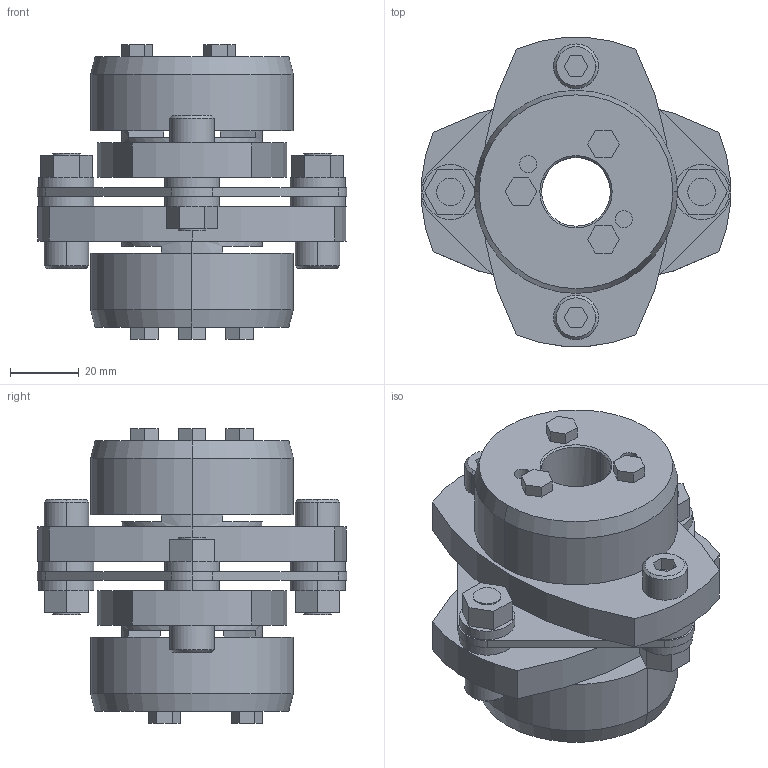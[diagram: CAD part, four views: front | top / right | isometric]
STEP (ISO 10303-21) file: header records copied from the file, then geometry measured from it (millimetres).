
FILE_DESCRIPTION((''),'2;1');
FILE_NAME('LCS-90T7-20×22.stp','2011-09-09T09:53:26',(''),(''),'AutoCAD STEP 2000i','AutoCAD 2000i',', , ');
FILE_SCHEMA(('CONFIG_CONTROL_DESIGN'));
Length unit declared in the file: millimetre
Products named in the file (7): LCS-90T7-19×19; 忣兜1; LC90T7-T019-1; LC90T7-T019; LC90-B019-1; LC90-B019; LCS90-ITA
Assembly tree (6 placements, depth 2):
  LCS-90T7-19×19
    忣兜1
    LC90T7-T019-1
    LC90T7-T019
    LC90-B019-1
    LC90-B019
    LCS90-ITA
Bounding box: 90 x 89.94 x 85.5 mm (x, y, z)
Volume: 204299 mm3; surface area: 52501.6 mm2
Topology: 1 solids, 1 shells, 235 faces, 580 edges, 378 vertices
Faces by surface type: plane 135, cylinder 80, cone 20
Entity records: 7183 total; most frequent: DIRECTION 1266, CARTESIAN_POINT 1200, ORIENTED_EDGE 1160, EDGE_CURVE 580, AXIS2_PLACEMENT_3D 444, VERTEX_POINT 378, VECTOR 378, LINE 378
